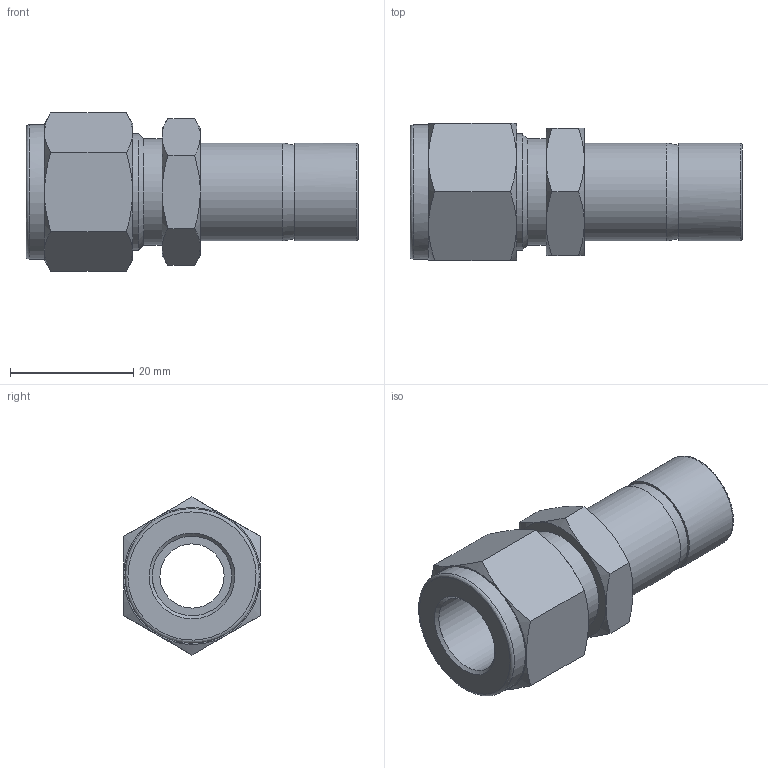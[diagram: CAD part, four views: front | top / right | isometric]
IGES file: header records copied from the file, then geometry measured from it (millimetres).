
Global section: file name: SR-8-10; native system: Autodesk Inventor 2016; preprocessor: unknown; author: DESIGNPC2; date: 20151112.195931; units: millimetre
Bounding box: 53.9 x 22.23 x 25.67 mm (x, y, z)
Volume: 9428.7 mm3; surface area: 6182.7 mm2
Topology: 1 solids, 1 shells, 59 faces, 154 edges, 104 vertices
Faces by surface type: bspline 59
